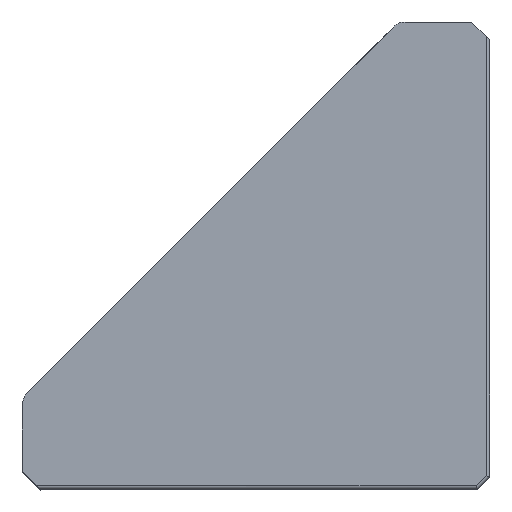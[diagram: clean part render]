
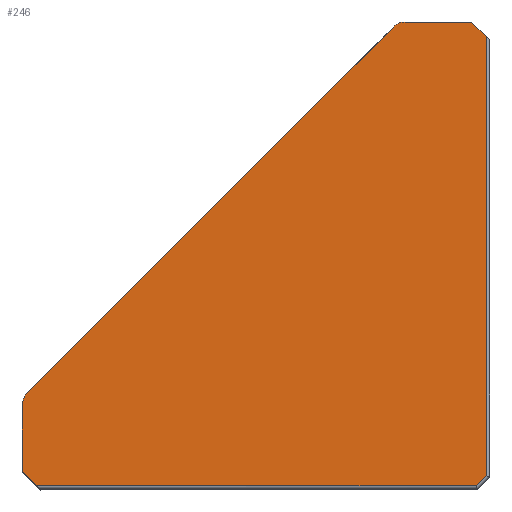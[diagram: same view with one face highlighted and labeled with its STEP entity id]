
A CAD part, top view. The second image highlights one B-rep face of the part: STEP entity #246.
In plain terms, the highlighted planar face has unit normal (0.012, -0.012, 1).
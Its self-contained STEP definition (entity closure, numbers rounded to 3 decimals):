
#246=ADVANCED_FACE('NONE',(#628),#629,.T.);
#628=FACE_OUTER_BOUND('',#1222,.T.);
#629=PLANE('',#1223);
#1222=EDGE_LOOP('',(#2203,#2204,#2205,#2206,#2207,#2208,#2209,#2210,#2211,#2212));
#1223=AXIS2_PLACEMENT_3D('',#2213,#2214,#2215);
#2203=ORIENTED_EDGE('',*,*,#3598,.T.);
#2204=ORIENTED_EDGE('',*,*,#3599,.T.);
#2205=ORIENTED_EDGE('',*,*,#3600,.T.);
#2206=ORIENTED_EDGE('',*,*,#3570,.T.);
#2207=ORIENTED_EDGE('',*,*,#3601,.T.);
#2208=ORIENTED_EDGE('',*,*,#3602,.T.);
#2209=ORIENTED_EDGE('',*,*,#3603,.T.);
#2210=ORIENTED_EDGE('',*,*,#3604,.T.);
#2211=ORIENTED_EDGE('',*,*,#3605,.T.);
#2212=ORIENTED_EDGE('',*,*,#3592,.T.);
#2213=CARTESIAN_POINT('',(-5.62,26.907,14.0));
#2214=DIRECTION('',(0.012,-0.012,1.));
#2215=DIRECTION('',(-0.707,-0.707,0.0));
#3570=EDGE_CURVE('NONE',#4231,#4228,#4232,.T.);
#3592=EDGE_CURVE('NONE',#4270,#4268,#4271,.T.);
#3598=EDGE_CURVE('NONE',#4268,#4278,#4279,.T.);
#3599=EDGE_CURVE('NONE',#4278,#4280,#4281,.T.);
#3600=EDGE_CURVE('NONE',#4280,#4231,#4282,.T.);
#3601=EDGE_CURVE('NONE',#4228,#4283,#4284,.T.);
#3602=EDGE_CURVE('NONE',#4283,#4285,#4286,.T.);
#3603=EDGE_CURVE('NONE',#4285,#4287,#4288,.T.);
#3604=EDGE_CURVE('NONE',#4287,#4289,#4290,.T.);
#3605=EDGE_CURVE('NONE',#4289,#4270,#4291,.T.);
#4228=VERTEX_POINT('NONE',#5282);
#4231=VERTEX_POINT('NONE',#5295);
#4232=LINE('',#5296,#5297);
#4268=VERTEX_POINT('NONE',#5402);
#4270=VERTEX_POINT('NONE',#5405);
#4271=LINE('',#5406,#5407);
#4278=VERTEX_POINT('NONE',#5426);
#4279=LINE('',#5427,#5428);
#4280=VERTEX_POINT('NONE',#5429);
#4281=LINE('',#5430,#5431);
#4282=LINE('',#5432,#5433);
#4283=VERTEX_POINT('NONE',#5434);
#4284=LINE('',#5435,#5436);
#4285=VERTEX_POINT('NONE',#5437);
#4286=LINE('',#5438,#5439);
#4287=VERTEX_POINT('NONE',#5440);
#4288=(B_SPLINE_CURVE(3,(#5442,#5443,#5444,#5445),.UNSPECIFIED.,.F.,.F.)B_SPLINE_CURVE_WITH_KNOTS((4,4),(2.356,3.142),.UNSPECIFIED.)RATIONAL_B_SPLINE_CURVE((1.0,0.949,0.949,1.0))BOUNDED_CURVE()REPRESENTATION_ITEM('')GEOMETRIC_REPRESENTATION_ITEM()CURVE());
#4289=VERTEX_POINT('NONE',#5452);
#4290=LINE('',#5453,#5454);
#4291=(B_SPLINE_CURVE(3,(#5456,#5457,#5458,#5459),.UNSPECIFIED.,.F.,.F.)B_SPLINE_CURVE_WITH_KNOTS((4,4),(3.142,3.927),.UNSPECIFIED.)RATIONAL_B_SPLINE_CURVE((1.0,0.949,0.949,1.0))BOUNDED_CURVE()REPRESENTATION_ITEM('')GEOMETRIC_REPRESENTATION_ITEM()CURVE());
#5282=CARTESIAN_POINT('',(-0.198,26.36,13.926));
#5295=CARTESIAN_POINT('',(-0.198,0.787,13.611));
#5296=CARTESIAN_POINT('',(-0.198,26.163,13.924));
#5297=VECTOR('',#6932,1000.0);
#5402=CARTESIAN_POINT('',(-27.2,1.037,13.947));
#5405=CARTESIAN_POINT('',(-27.2,4.913,13.995));
#5406=CARTESIAN_POINT('',(-27.2,4.913,13.995));
#5407=VECTOR('',#6949,1000.0);
#5426=CARTESIAN_POINT('',(-26.36,0.198,13.926));
#5427=CARTESIAN_POINT('',(-27.201,1.038,13.947));
#5428=VECTOR('',#6952,1000.0);
#5429=CARTESIAN_POINT('',(-0.787,0.198,13.611));
#5430=CARTESIAN_POINT('',(-0.707,0.198,13.61));
#5431=VECTOR('',#6953,1000.0);
#5432=CARTESIAN_POINT('',(-0.139,0.846,13.611));
#5433=VECTOR('',#6954,1000.0);
#5434=CARTESIAN_POINT('',(-1.037,27.2,13.947));
#5435=CARTESIAN_POINT('',(-1.038,27.201,13.947));
#5436=VECTOR('',#6955,1000.0);
#5437=CARTESIAN_POINT('',(-4.913,27.2,13.995));
#5438=CARTESIAN_POINT('',(-1.038,27.2,13.947));
#5439=VECTOR('',#6956,1000.0);
#5440=CARTESIAN_POINT('',(-5.62,26.907,14.0));
#5442=CARTESIAN_POINT('',(-4.913,27.2,13.995));
#5443=CARTESIAN_POINT('',(-5.181,27.2,13.998));
#5444=CARTESIAN_POINT('',(-5.43,27.097,14.0));
#5445=CARTESIAN_POINT('',(-5.62,26.907,14.0));
#5452=CARTESIAN_POINT('',(-26.907,5.62,14.0));
#5453=CARTESIAN_POINT('',(-5.62,26.907,14.0));
#5454=VECTOR('',#6957,1000.0);
#5456=CARTESIAN_POINT('',(-26.907,5.62,14.0));
#5457=CARTESIAN_POINT('',(-27.097,5.43,14.0));
#5458=CARTESIAN_POINT('',(-27.2,5.181,13.998));
#5459=CARTESIAN_POINT('',(-27.2,4.913,13.995));
#6932=DIRECTION('',(0.,1.,0.012));
#6949=DIRECTION('',(0.,-1.,-0.012));
#6952=DIRECTION('',(0.707,-0.707,-0.017));
#6953=DIRECTION('',(1.,0.,-0.012));
#6954=DIRECTION('',(0.707,0.707,0.));
#6955=DIRECTION('',(-0.707,0.707,0.017));
#6956=DIRECTION('',(-1.,0.,0.012));
#6957=DIRECTION('',(-0.707,-0.707,0.0));
